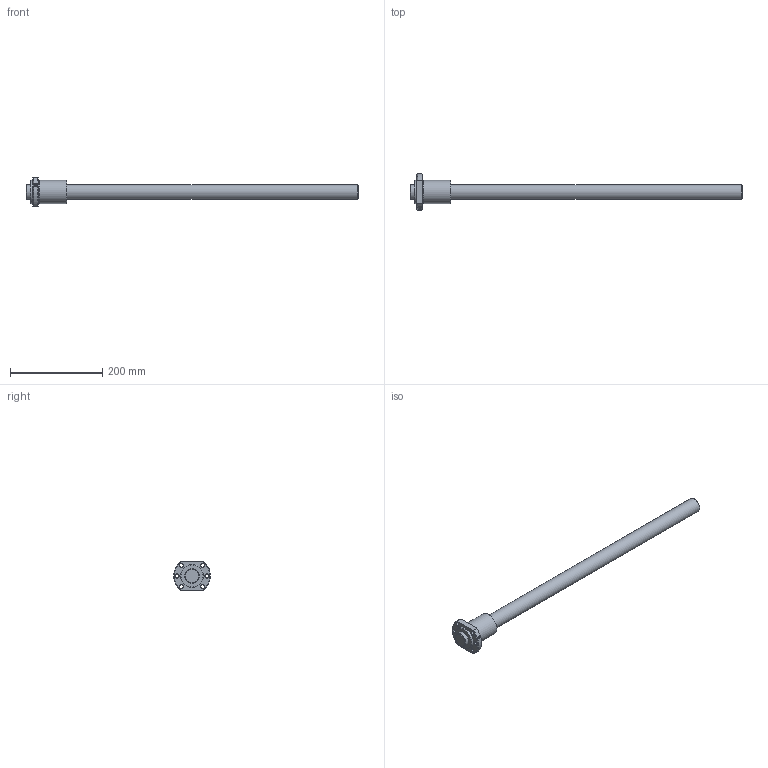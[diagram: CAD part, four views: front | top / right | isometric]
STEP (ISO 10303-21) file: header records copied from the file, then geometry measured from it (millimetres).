
FILE_DESCRIPTION(/* description */ ('STEP AP214'),/* implementation_level */ '2;1');
FILE_NAME(/* name */ 'EPB3205-8RRG0+720LC0(622G000)_rev',/* time_stamp */ '2023-08-03T13:27:43+02:00',/* author */ ('License CC BY-ND 4.0'),/* organization */ ('CADENAS'),/* preprocessor_version */ 'ST-DEVELOPER v19.3',/* originating_system */ 'PARTsolutions',/* authorisation */ ' ');
FILE_SCHEMA (('AUTOMOTIVE_DESIGN {1 0 10303 214 3 1 1}'));
Length unit declared in the file: millimetre
Products named in the file (3): EPB3205-8RRG0+720LC0(622G000)_rev; EPB 3205-8RR Nut1; EPB 3205-86220 Shaft1
Assembly tree (2 placements, depth 2):
  EPB3205-8RRG0+720LC0(622G000)_rev
    EPB 3205-8RR Nut1
    EPB 3205-86220 Shaft1
Bounding box: 720 x 79.74 x 62 mm (x, y, z)
Volume: 692440.5 mm3; surface area: 103764.5 mm2
Topology: 2 solids, 2 shells, 32 faces, 72 edges, 47 vertices
Faces by surface type: cylinder 14, cone 9, plane 9
Full cylindrical faces by diameter (mm): 4.917 x1, 9 x6, 32 x2, 47 x1, 50 x2
Entity records: 935 total; most frequent: CARTESIAN_POINT 177, DIRECTION 148, ORIENTED_EDGE 106, AXIS2_PLACEMENT_3D 70, EDGE_LOOP 68, FACE_BOUND 68, EDGE_CURVE 53, VERTEX_POINT 45
